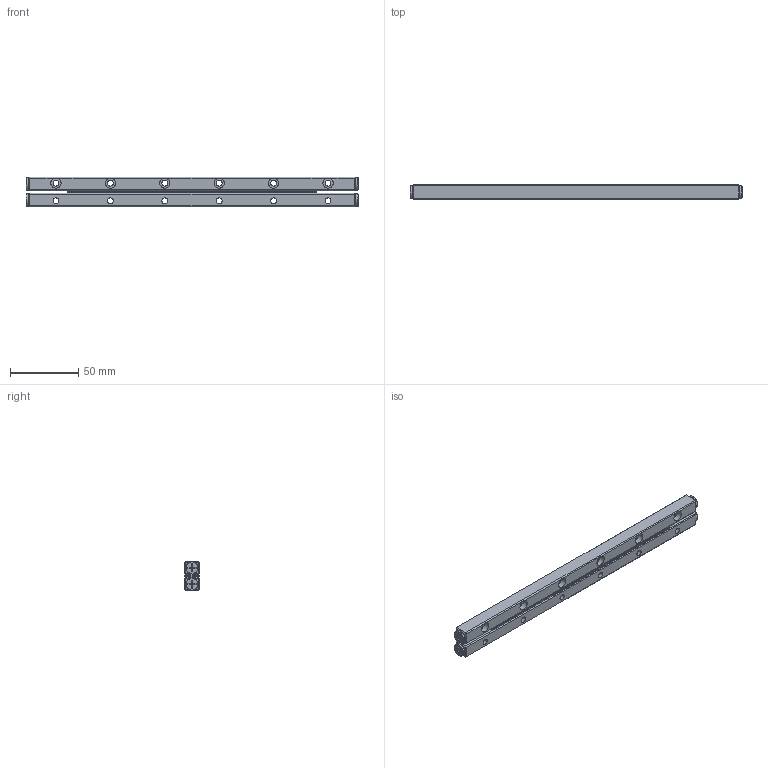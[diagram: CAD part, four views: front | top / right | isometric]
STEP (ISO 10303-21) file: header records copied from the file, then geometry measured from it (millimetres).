
FILE_DESCRIPTION (( 'STEP AP203' ), '1' );
FILE_NAME ('組合件-軌道組-GRG04-0240H-36Z-模糊化軌道組.STEP', '2022-12-28T01:24:02', ( '' ), ( '' ), 'SwSTEP 2.0', 'SolidWorks 2019', '' );
FILE_SCHEMA (( 'CONFIG_CONTROL_DESIGN' ));
Length unit declared in the file: millimetre
Products named in the file (1): 組合件-軌道組-GRG04-0240H-36Z-模糊化軌道組
Bounding box: 244 x 11 x 22 mm (x, y, z)
Volume: 49907.7 mm3; surface area: 28823.6 mm2
Topology: 3 solids, 7 shells, 734 faces, 2034 edges, 1310 vertices
Faces by surface type: plane 508, cylinder 106, torus 80, cone 40
Full cylindrical faces by diameter (mm): 3.35 x4, 4.3 x12, 7.5 x12, 9.3 x4
Entity records: 23229 total; most frequent: CARTESIAN_POINT 5975, ORIENTED_EDGE 3912, DIRECTION 3294, EDGE_CURVE 1956, VERTEX_POINT 1280, AXIS2_PLACEMENT_3D 1175, LINE 944, VECTOR 944
